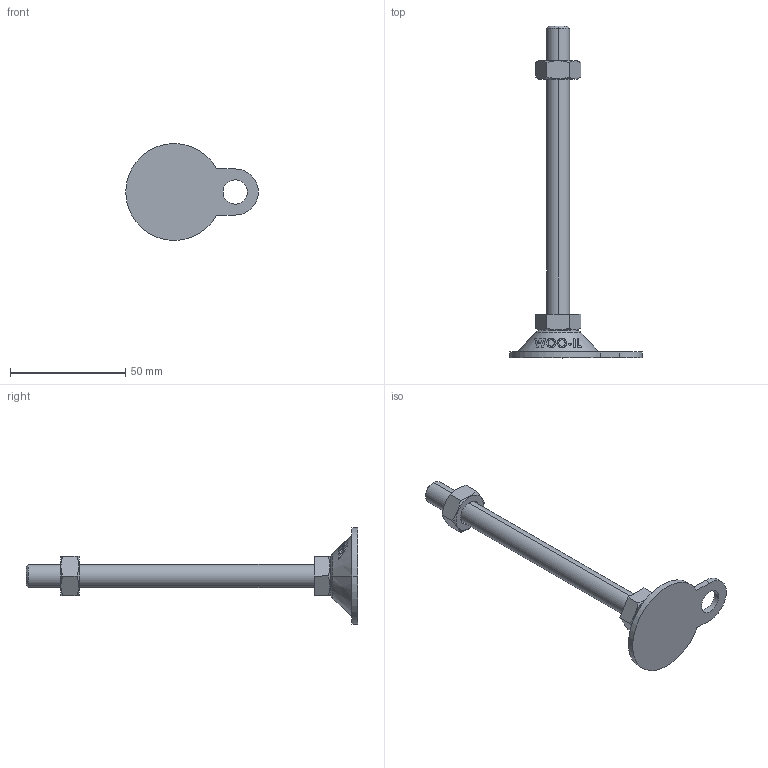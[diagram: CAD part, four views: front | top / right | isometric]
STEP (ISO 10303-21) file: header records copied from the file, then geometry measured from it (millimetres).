
FILE_DESCRIPTION (( 'STEP AP214' ), '1' );
FILE_NAME ('ABL42-M10-125.step', '2021-02-05T04:17:49', ( '' ), ( '' ), 'SwSTEP 2.0', 'SolidWorks 2019', '' );
FILE_SCHEMA (( 'AUTOMOTIVE_DESIGN' ));
Length unit declared in the file: millimetre
Products named in the file (2): ABL42-M10-125
Bounding box: 57.5 x 144 x 41.86 mm (x, y, z)
Volume: 22335.5 mm3; surface area: 9542.3 mm2
Topology: 2 solids, 2 shells, 128 faces, 325 edges, 212 vertices
Faces by surface type: plane 48, cylinder 38, cone 22, bspline 18, torus 2
Entity records: 5503 total; most frequent: CARTESIAN_POINT 2617, ORIENTED_EDGE 650, DIRECTION 473, EDGE_CURVE 325, VERTEX_POINT 212, AXIS2_PLACEMENT_3D 176, EDGE_LOOP 143, B_SPLINE_CURVE_WITH_KNOTS 140
